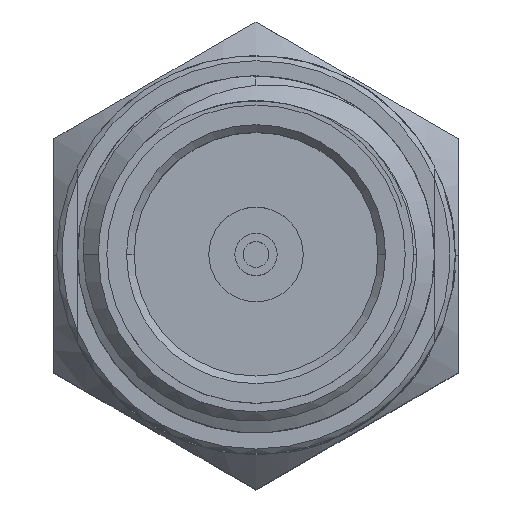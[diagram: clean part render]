
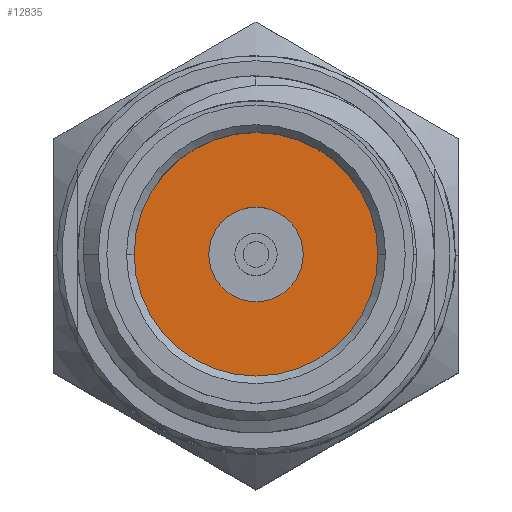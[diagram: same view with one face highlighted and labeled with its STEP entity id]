
A CAD part, top view. The second image highlights one B-rep face of the part: STEP entity #12835.
In plain terms, the highlighted planar face has unit normal (0, 0, 1).
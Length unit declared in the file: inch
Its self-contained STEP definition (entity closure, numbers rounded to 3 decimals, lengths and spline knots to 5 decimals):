
#714 = VERTEX_POINT ( 'NONE', #16474 ) ;
#865 = VERTEX_POINT ( 'NONE', #8815 ) ;
#1093 = DIRECTION ( 'NONE',  ( 1., 0., 0. ) ) ;
#1221 = AXIS2_PLACEMENT_3D ( 'NONE', #9989, #13855, #11219 ) ;
#1227 = DIRECTION ( 'NONE',  ( 1., 0., 0. ) ) ;
#2285 = ORIENTED_EDGE ( 'NONE', *, *, #12399, .F. ) ;
#2384 = FACE_BOUND ( 'NONE', #6662, .T. ) ;
#2425 = DIRECTION ( 'NONE',  ( 0., 0., 1. ) ) ;
#2814 = CARTESIAN_POINT ( 'NONE',  ( 0.0939, 0., 0.54921 ) ) ;
#3479 = CIRCLE ( 'NONE', #1221, 0.0939 ) ;
#3573 = CARTESIAN_POINT ( 'NONE',  ( 0., 0., 0.54921 ) ) ;
#4265 = ORIENTED_EDGE ( 'NONE', *, *, #11984, .F. ) ;
#4630 = AXIS2_PLACEMENT_3D ( 'NONE', #6423, #17171, #1227 ) ;
#4845 = PLANE ( 'NONE',  #5971 ) ;
#5696 = AXIS2_PLACEMENT_3D ( 'NONE', #3573, #2425, #1093 ) ;
#5779 = VERTEX_POINT ( 'NONE', #12859 ) ;
#5971 = AXIS2_PLACEMENT_3D ( 'NONE', #7758, #13109, #10216 ) ;
#6423 = CARTESIAN_POINT ( 'NONE',  ( 0., 0., 0.54921 ) ) ;
#6662 = EDGE_LOOP ( 'NONE', ( #4265, #2285 ) ) ;
#6797 = CIRCLE ( 'NONE', #11582, 0.03642 ) ;
#7140 = DIRECTION ( 'NONE',  ( 0., 0., 1. ) ) ;
#7655 = CIRCLE ( 'NONE', #5696, 0.03642 ) ;
#7749 = VERTEX_POINT ( 'NONE', #2814 ) ;
#7758 = CARTESIAN_POINT ( 'NONE',  ( 0., 0.0939, 0.54921 ) ) ;
#8461 = CARTESIAN_POINT ( 'NONE',  ( 0., 0., 0.54921 ) ) ;
#8525 = EDGE_LOOP ( 'NONE', ( #14738, #8553 ) ) ;
#8553 = ORIENTED_EDGE ( 'NONE', *, *, #14326, .T. ) ;
#8815 = CARTESIAN_POINT ( 'NONE',  ( 0.03642, 0., 0.54921 ) ) ;
#9070 = FACE_OUTER_BOUND ( 'NONE', #8525, .T. ) ;
#9989 = CARTESIAN_POINT ( 'NONE',  ( 0., 0., 0.54921 ) ) ;
#10216 = DIRECTION ( 'NONE',  ( -1., 0., 0. ) ) ;
#10258 = CIRCLE ( 'NONE', #4630, 0.0939 ) ;
#11186 = DIRECTION ( 'NONE',  ( 1., 0., 0. ) ) ;
#11219 = DIRECTION ( 'NONE',  ( 1., 0., 0. ) ) ;
#11582 = AXIS2_PLACEMENT_3D ( 'NONE', #8461, #7140, #11186 ) ;
#11984 = EDGE_CURVE ( 'NONE', #865, #714, #6797, .T. ) ;
#12399 = EDGE_CURVE ( 'NONE', #714, #865, #7655, .T. ) ;
#12835 = ADVANCED_FACE ( 'NONE', ( #9070, #2384 ), #4845, .F. ) ;
#12859 = CARTESIAN_POINT ( 'NONE',  ( -0.0939, 0., 0.54921 ) ) ;
#13109 = DIRECTION ( 'NONE',  ( 0., 0., -1. ) ) ;
#13855 = DIRECTION ( 'NONE',  ( 0., 0., 1. ) ) ;
#14326 = EDGE_CURVE ( 'NONE', #5779, #7749, #3479, .T. ) ;
#14738 = ORIENTED_EDGE ( 'NONE', *, *, #16694, .T. ) ;
#16474 = CARTESIAN_POINT ( 'NONE',  ( -0.03642, 0., 0.54921 ) ) ;
#16694 = EDGE_CURVE ( 'NONE', #7749, #5779, #10258, .T. ) ;
#17171 = DIRECTION ( 'NONE',  ( 0., 0., 1. ) ) ;
